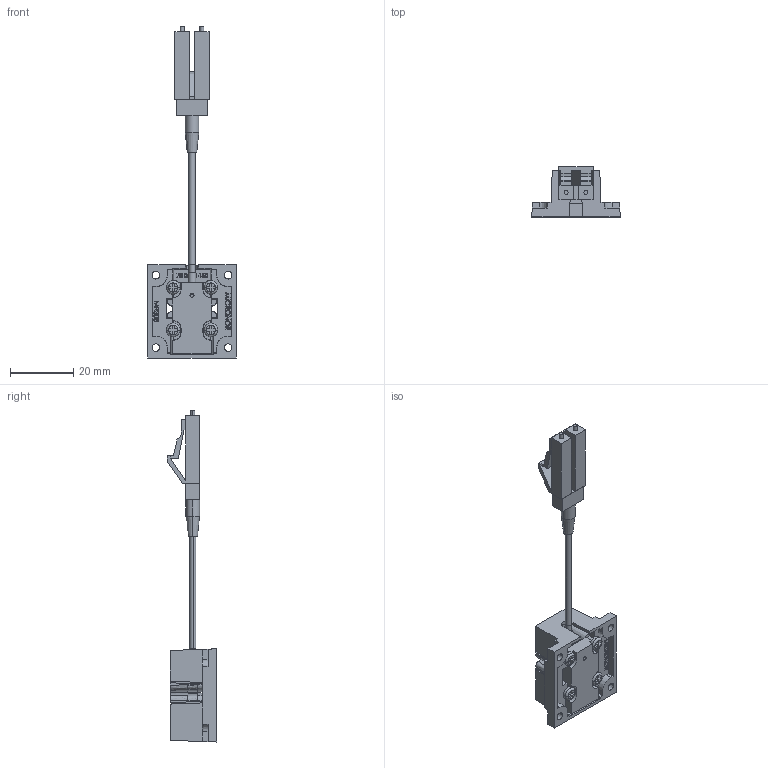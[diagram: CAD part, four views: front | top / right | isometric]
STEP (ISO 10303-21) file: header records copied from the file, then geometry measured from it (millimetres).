
FILE_DESCRIPTION (( 'STEP AP203' ), '1' );
FILE_NAME ('MR343.STEP', '2018-04-10T17:11:50', ( '' ), ( '' ), 'SwSTEP 2.0', 'SolidWorks 2017', '' );
FILE_SCHEMA (( 'CONFIG_CONTROL_DESIGN' ));
Products named in the file (1): MR343
Bounding box: 27.94 x 15.71 x 104.98 mm (x, y, z)
Volume: 6525.1 mm3; surface area: 8990.4 mm2
Topology: 37 solids, 37 shells, 1050 faces, 2765 edges, 1828 vertices
Faces by surface type: plane 627, bspline 276, cone 80, cylinder 51, torus 16
Entity records: 45157 total; most frequent: CARTESIAN_POINT 21571, ORIENTED_EDGE 5530, DIRECTION 3631, EDGE_CURVE 2765, VERTEX_POINT 1828, LINE 1577, VECTOR 1577, EDGE_LOOP 1143
